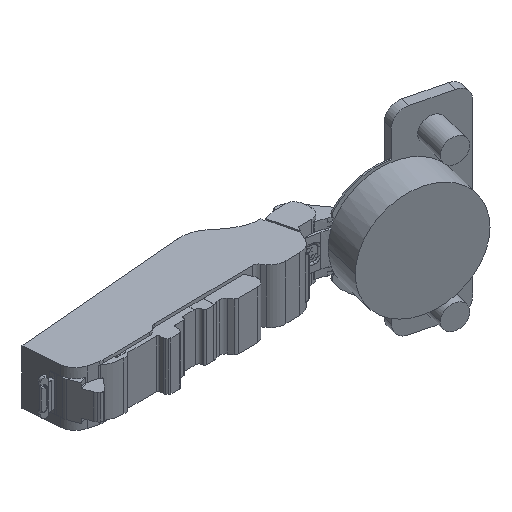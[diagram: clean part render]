
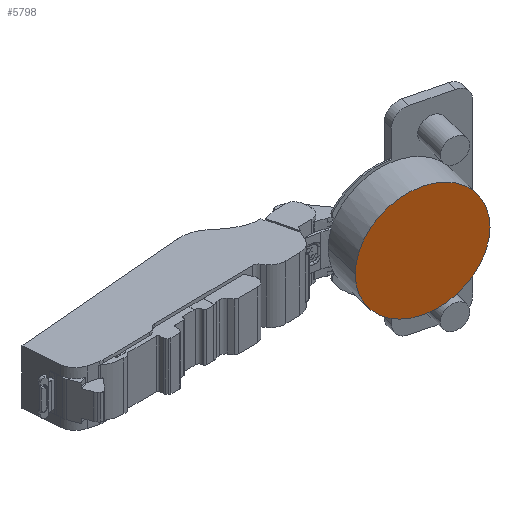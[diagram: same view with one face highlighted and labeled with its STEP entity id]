
A CAD part, isometric view. The second image highlights one B-rep face of the part: STEP entity #5798.
In plain terms, the highlighted planar face has unit normal (-0.238, -0.971, 0).
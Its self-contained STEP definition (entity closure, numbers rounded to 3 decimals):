
#91 = ORIENTED_EDGE ( 'NONE', *, *, #6750, .T. ) ;
#743 = EDGE_LOOP ( 'NONE', ( #1792, #91 ) ) ;
#1115 = CARTESIAN_POINT ( 'NONE',  ( 23.589, -6.247, 0. ) ) ;
#1342 = CARTESIAN_POINT ( 'NONE',  ( 40.49, -10.391, 0. ) ) ;
#1421 = AXIS2_PLACEMENT_3D ( 'NONE', #1115, #9608, #10531 ) ;
#1792 = ORIENTED_EDGE ( 'NONE', *, *, #13561, .T. ) ;
#2162 = AXIS2_PLACEMENT_3D ( 'NONE', #5408, #10728, #5281 ) ;
#3981 = CARTESIAN_POINT ( 'NONE',  ( 6.689, -2.103, 0. ) ) ;
#4698 = DIRECTION ( 'NONE',  ( 0.238, 0.971, 0. ) ) ;
#4905 = DIRECTION ( 'NONE',  ( 0., 0., 1. ) ) ;
#5281 = DIRECTION ( 'NONE',  ( 0.971, -0.238, 0. ) ) ;
#5408 = CARTESIAN_POINT ( 'NONE',  ( 23.589, -6.247, 0. ) ) ;
#5676 = VERTEX_POINT ( 'NONE', #1342 ) ;
#5798 = ADVANCED_FACE ( 'NONE', ( #11137 ), #7000, .F. ) ;
#6524 = CIRCLE ( 'NONE', #1421, 17.401 ) ;
#6750 = EDGE_CURVE ( 'NONE', #5676, #11064, #6524, .T. ) ;
#7000 = PLANE ( 'NONE',  #12596 ) ;
#9608 = DIRECTION ( 'NONE',  ( -0.238, -0.971, 0. ) ) ;
#10136 = CARTESIAN_POINT ( 'NONE',  ( 34.24, -8.859, -7.7 ) ) ;
#10417 = CIRCLE ( 'NONE', #2162, 17.401 ) ;
#10531 = DIRECTION ( 'NONE',  ( 0.971, -0.238, 0. ) ) ;
#10728 = DIRECTION ( 'NONE',  ( -0.238, -0.971, 0. ) ) ;
#11064 = VERTEX_POINT ( 'NONE', #3981 ) ;
#11137 = FACE_OUTER_BOUND ( 'NONE', #743, .T. ) ;
#12596 = AXIS2_PLACEMENT_3D ( 'NONE', #10136, #4698, #4905 ) ;
#13561 = EDGE_CURVE ( 'NONE', #11064, #5676, #10417, .T. ) ;
